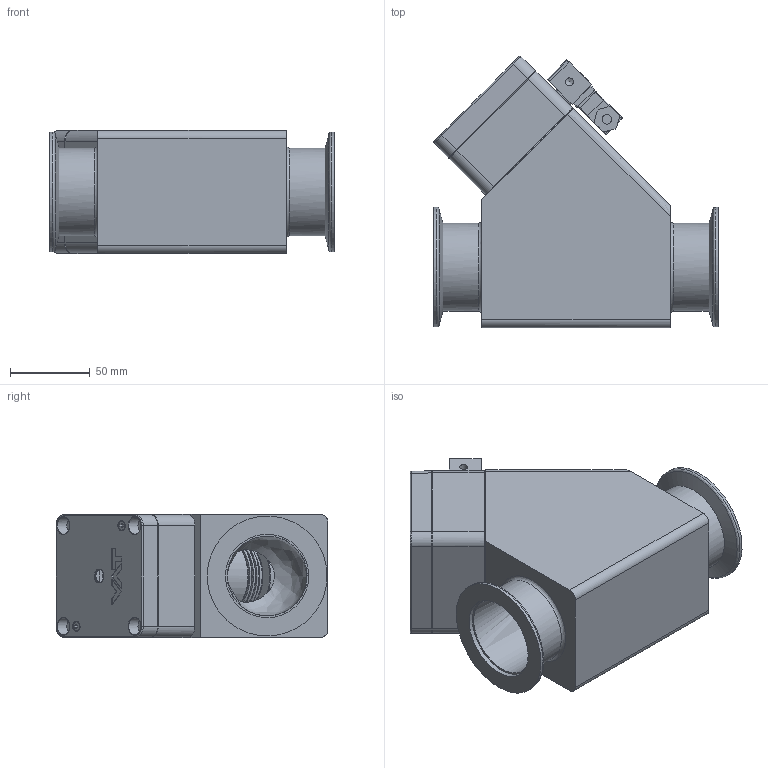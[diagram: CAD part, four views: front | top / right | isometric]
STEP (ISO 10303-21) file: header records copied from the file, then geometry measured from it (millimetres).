
FILE_DESCRIPTION((''),'2;1');
FILE_NAME('C:\Temp\Ideas\258908.stp','2005-02-11T15:35:46',('User'),( 'SDRC'),'I-DEAS Master Series 9','UNIX','Yes');
FILE_SCHEMA(('CONFIG_CONTROL_DESIGN'));
Length unit declared in the file: millimetre
Assembly tree (19 placements, depth 0):
Bounding box: 178.01 x 170.12 x 77 mm (x, y, z)
Volume: 668803.1 mm3; surface area: 274709.5 mm2
Topology: 22 solids, 26 shells, 821 faces, 1908 edges, 1255 vertices
Faces by surface type: bspline 821
Entity records: 26756 total; most frequent: CARTESIAN_POINT 14113, ORIENTED_EDGE 3418, EDGE_CURVE 1710, VERTEX_POINT 1096, EDGE_LOOP 889, FACE_OUTER_BOUND 746, ADVANCED_FACE 746, B_SPLINE_CURVE_WITH_KNOTS 597
